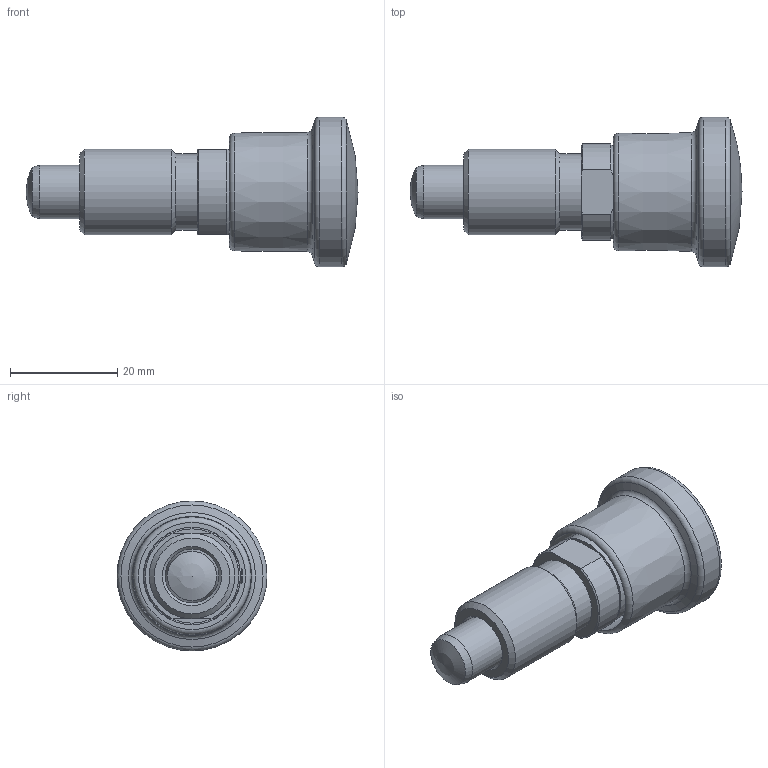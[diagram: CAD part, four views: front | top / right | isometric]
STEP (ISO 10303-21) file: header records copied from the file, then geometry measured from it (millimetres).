
FILE_DESCRIPTION( ( 'STEP AP203' ), '1' );
FILE_NAME( 'C:/Temp/Ganter_Step_05_03_2020/data/3_1/gn816/gn_816_a/Locking plunger GN 816-10-M16x1,5-A (deactivated).stp', '2020-03-12T08:55:35', ( 'License CC BY-ND 4.0' ), ( 'CADENAS' ), ' ', 'PARTsolutions', ' ' );
FILE_SCHEMA( ( 'CONFIG_CONTROL_DESIGN' ) );
Length unit declared in the file: millimetre
Products named in the file (3): Locking plunger GN 816-10-M16x1,5-A (deactivated); _GN 816-10-M16x1,5-A (0)-a2; _GN 816-10-M16x1,5-A-a1
Assembly tree (2 placements, depth 2):
  Locking plunger GN 816-10-M16x1,5-A (deactivated)
    _GN 816-10-M16x1,5-A (0)-a2
    _GN 816-10-M16x1,5-A-a1
Bounding box: 62 x 28 x 28 mm (x, y, z)
Volume: 14652.5 mm3; surface area: 10304.3 mm2
Topology: 2 solids, 2 shells, 52 faces, 106 edges, 66 vertices
Faces by surface type: cylinder 15, cone 15, plane 14, torus 6, sphere 2
Full cylindrical faces by diameter (mm): 2.9 x2, 3 x2, 7 x1, 10 x2, 11.1 x1, 14.2 x1, 16 x1, 18.2 x1, 20.017 x1, 28 x1
Entity records: 1578 total; most frequent: CARTESIAN_POINT 513, DIRECTION 210, ORIENTED_EDGE 136, AXIS2_PLACEMENT_3D 101, EDGE_LOOP 98, FACE_OUTER_BOUND 71, EDGE_CURVE 68, VERTEX_POINT 62
